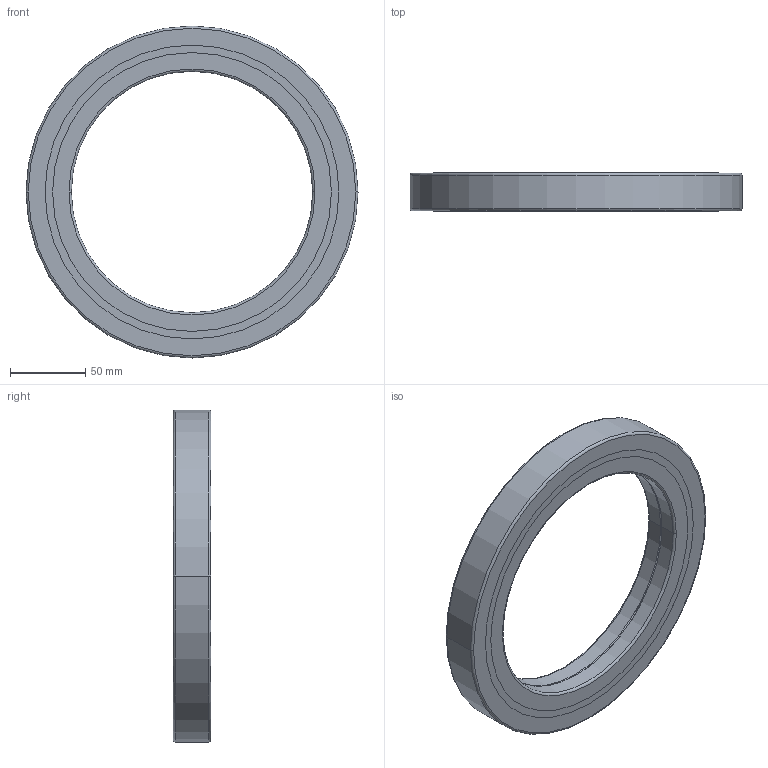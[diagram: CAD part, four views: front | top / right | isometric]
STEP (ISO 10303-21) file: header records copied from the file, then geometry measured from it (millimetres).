
FILE_DESCRIPTION(('starvars output'),'2;1');
FILE_NAME('cv20160920044003000003772.stp','04:40:04 2016/09/20',( 'Thomas Industrial Network Germany GmbH'),( 'Thomas Industrial Network Germany GmbH'),'unknown preprocess','ACIS' ,'unknown authorization');
FILE_SCHEMA(('AUTOMOTIVE_DESIGN_CC2 {UNKNOWN IMPLEMENTATION LEVEL}'));
Length unit declared in the file: millimetre
Products named in the file (1): PRODUCT_ID_1
Bounding box: 220 x 25 x 220 mm (x, y, z)
Volume: 424047.3 mm3; surface area: 128723.9 mm2
Topology: 1 solids, 2 shells, 580 faces, 1420 edges, 976 vertices
Faces by surface type: cylinder 412, plane 140, cone 20, torus 8
Entity records: 23225 total; most frequent: CARTESIAN_POINT 6880, ORIENTED_EDGE 2840, DIRECTION 1644, EDGE_CURVE 1420, VERTEX_POINT 976, EDGE_LOOP 844, FACE_BOUND 844, AXIS2_PLACEMENT_3D 604
